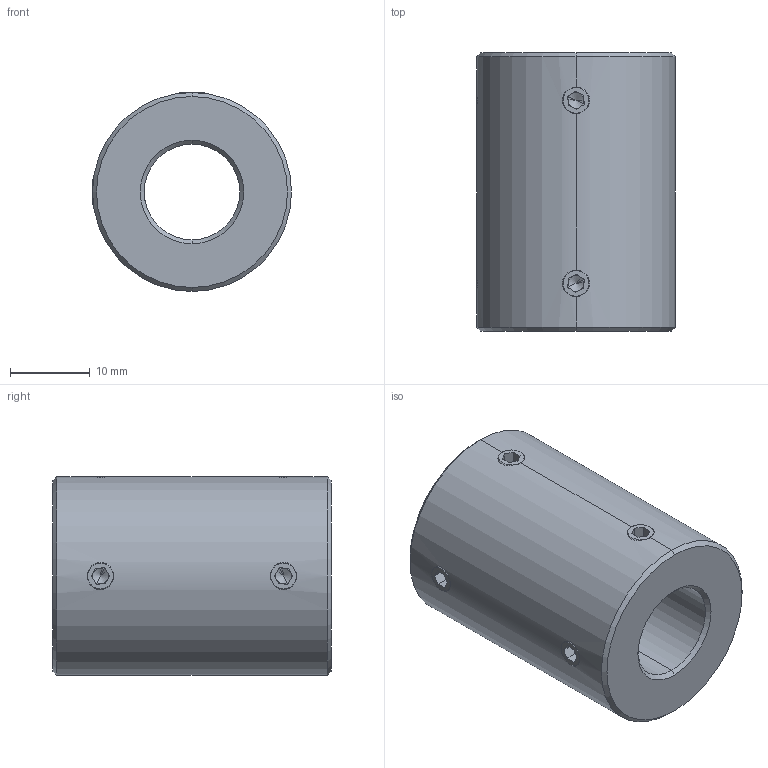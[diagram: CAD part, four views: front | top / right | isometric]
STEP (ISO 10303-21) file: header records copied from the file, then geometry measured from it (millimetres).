
FILE_DESCRIPTION (( 'STEP AP214' ), '1' );
FILE_NAME ('LL-D-D25L35-12-12½¨Ä£.STEP', '2022-07-23T00:45:18', ( '' ), ( '' ), 'SwSTEP 2.0', 'SolidWorks 2022', '' );
FILE_SCHEMA (( 'AUTOMOTIVE_DESIGN' ));
Length unit declared in the file: millimetre
Products named in the file (1): LL-D-D25L35-12-12膘耀
Bounding box: 25 x 35 x 25 mm (x, y, z)
Volume: 13080.3 mm3; surface area: 4931.4 mm2
Topology: 1 solids, 1 shells, 110 faces, 280 edges, 172 vertices
Faces by surface type: plane 58, cone 32, cylinder 20
Entity records: 3642 total; most frequent: CARTESIAN_POINT 999, ORIENTED_EDGE 544, DIRECTION 542, EDGE_CURVE 272, AXIS2_PLACEMENT_3D 199, VERTEX_POINT 172, LINE 144, VECTOR 144
